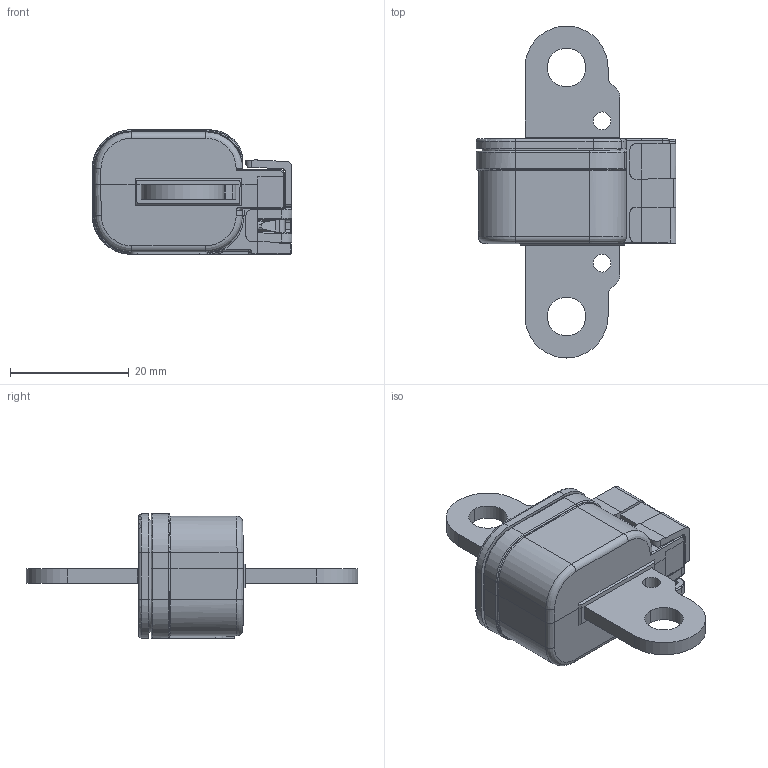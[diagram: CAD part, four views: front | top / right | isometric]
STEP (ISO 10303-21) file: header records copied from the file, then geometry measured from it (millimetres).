
FILE_DESCRIPTION(('Creo Elements/Direct Modeling STEP Export'),'2;1');
FILE_NAME('BB_HSNBV-DXX_20221111.stp','2022-11-11T12:51:21',(''),(''),'Creo Elements/Direct Modeling STEP processor for AP214 (Solid Model)','Creo Elements/Direct Modeling 20.1 10-Mar-2018 (C) Parametric Technology GmbH','');
FILE_SCHEMA(('AUTOMOTIVE_DESIGN { 1 0 10303 214 1 1 1 1 }'));
Products named in the file (3): 20161208-BLACKBOX-HSN-551520.PRT; 20161208-BLACKBOX-HSN-552130.ASM; BB_HSNBV-DXX.stp
Assembly tree (2 placements, depth 3):
  BB_HSNBV-DXX.stp
    20161208-BLACKBOX-HSN-552130.ASM
      20161208-BLACKBOX-HSN-551520.PRT
Bounding box: 33.7 x 56 x 21 mm (x, y, z)
Volume: 10979.2 mm3; surface area: 6259.5 mm2
Topology: 1 solids, 1 shells, 1351 faces, 3656 edges, 2339 vertices
Faces by surface type: plane 929, cylinder 253, bspline 131, torus 26, cone 12
Entity records: 58855 total; most frequent: CARTESIAN_POINT 25393, ORIENTED_EDGE 7310, DIRECTION 6171, EDGE_CURVE 3655, VECTOR 2837, LINE 2837, VERTEX_POINT 2339, AXIS2_PLACEMENT_3D 1667
